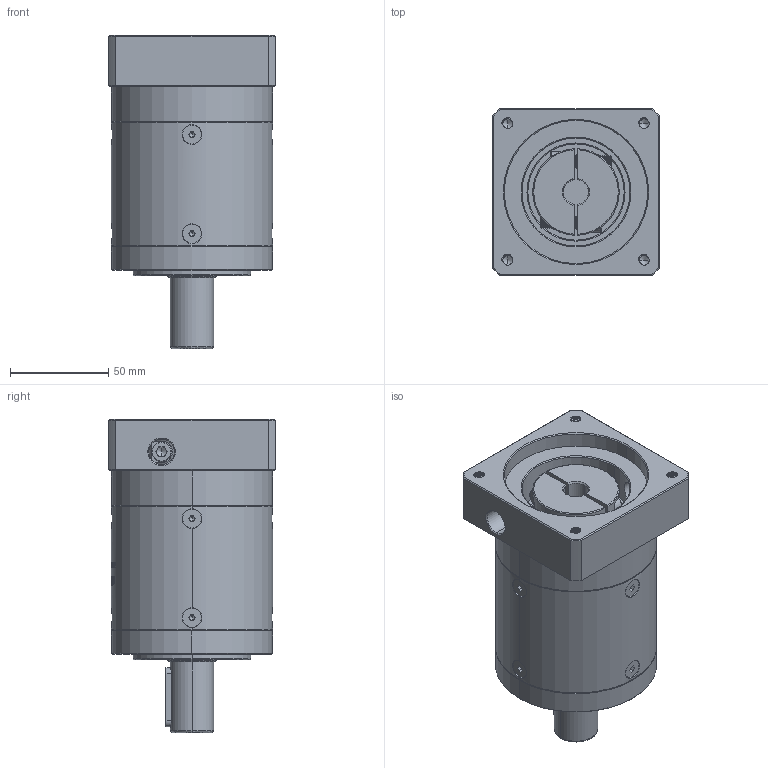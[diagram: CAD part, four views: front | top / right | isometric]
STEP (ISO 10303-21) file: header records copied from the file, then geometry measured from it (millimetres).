
FILE_DESCRIPTION (( 'STEP AP214' ), '1' );
FILE_NAME ('ZE80-D22-L2-12.7-73-69.5X69.5-M6.step', '2022-05-08T05:54:08', ( '' ), ( 'Microsoft' ), 'SwSTEP 2.0', 'SolidWorks 2016', '' );
FILE_SCHEMA (( 'AUTOMOTIVE_DESIGN' ));
Length unit declared in the file: millimetre
Products named in the file (1): ZE80-D22-L2-12.7-73-69.5X69.5-M6
Bounding box: 85 x 85 x 159.5 mm (x, y, z)
Volume: 624225.4 mm3; surface area: 90912.1 mm2
Topology: 13 solids, 13 shells, 2065 faces, 5384 edges, 3408 vertices
Faces by surface type: plane 891, cylinder 500, bspline 332, cone 325, torus 17
Entity records: 118526 total; most frequent: CARTESIAN_POINT 49491, ORIENTED_EDGE 10692, DIRECTION 8213, EDGE_CURVE 5346, VERTEX_POINT 3408, VECTOR 2863, LINE 2863, AXIS2_PLACEMENT_3D 2675
